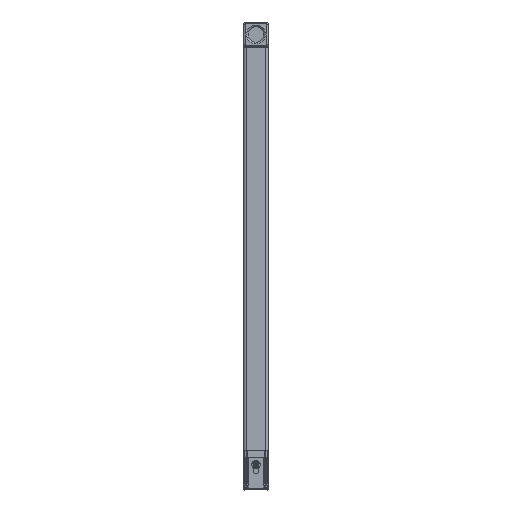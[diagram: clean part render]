
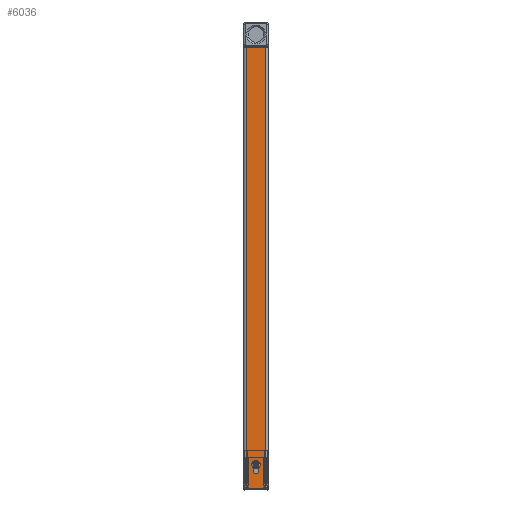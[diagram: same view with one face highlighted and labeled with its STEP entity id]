
A CAD part, top view. The second image highlights one B-rep face of the part: STEP entity #6036.
In plain terms, the highlighted planar face has unit normal (0, 0, 1).
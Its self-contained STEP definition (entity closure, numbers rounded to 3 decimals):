
#569=CARTESIAN_POINT('',(-12.,455.0,1335.0));
#570=VERTEX_POINT('',#569);
#577=CARTESIAN_POINT('',(12.,455.0,1335.0));
#578=VERTEX_POINT('',#577);
#579=CARTESIAN_POINT('',(12.,455.0,1335.0));
#580=DIRECTION('',(-1.0,0.0,0.0));
#581=VECTOR('',#580,24.);
#582=LINE('',#579,#581);
#583=EDGE_CURVE('',#578,#570,#582,.T.);
#1174=CARTESIAN_POINT('',(-3.,-47.,1335.0));
#1175=VERTEX_POINT('',#1174);
#1182=CARTESIAN_POINT('',(-3.0,-55.,1335.0));
#1183=VERTEX_POINT('',#1182);
#1184=CARTESIAN_POINT('',(-3.0,-55.,1335.0));
#1185=DIRECTION('',(0.0,1.0,0.0));
#1186=VECTOR('',#1185,8.0);
#1187=LINE('',#1184,#1186);
#1188=EDGE_CURVE('',#1183,#1175,#1187,.T.);
#1214=CARTESIAN_POINT('',(3.0,-55.,1335.0));
#1215=VERTEX_POINT('',#1214);
#1216=CARTESIAN_POINT('',(0.0,-55.,1335.0));
#1217=DIRECTION('',(0.0,0.0,-1.0));
#1218=DIRECTION('',(-1.0,0.0,0.0));
#1219=AXIS2_PLACEMENT_3D('',#1216,#1217,#1218);
#1220=CIRCLE('',#1219,3.0);
#1221=EDGE_CURVE('',#1215,#1183,#1220,.T.);
#1246=CARTESIAN_POINT('',(3.0,-47.,1335.0));
#1247=VERTEX_POINT('',#1246);
#1248=CARTESIAN_POINT('',(3.0,-47.,1335.0));
#1249=DIRECTION('',(0.0,-1.0,0.0));
#1250=VECTOR('',#1249,8.);
#1251=LINE('',#1248,#1250);
#1252=EDGE_CURVE('',#1247,#1215,#1251,.T.);
#1276=CARTESIAN_POINT('',(0.0,-47.,1335.0));
#1277=DIRECTION('',(0.0,0.0,-1.0));
#1278=DIRECTION('',(1.0,0.0,0.0));
#1279=AXIS2_PLACEMENT_3D('',#1276,#1277,#1278);
#1280=CIRCLE('',#1279,3.);
#1281=EDGE_CURVE('',#1175,#1247,#1280,.T.);
#1792=CARTESIAN_POINT('',(12.,-75.0,1335.0));
#1793=VERTEX_POINT('',#1792);
#1801=CARTESIAN_POINT('',(-12.,-75.0,1335.0));
#1802=VERTEX_POINT('',#1801);
#1803=CARTESIAN_POINT('',(-12.,-75.0,1335.0));
#1804=DIRECTION('',(1.0,0.0,0.0));
#1805=VECTOR('',#1804,24.);
#1806=LINE('',#1803,#1805);
#1807=EDGE_CURVE('',#1802,#1793,#1806,.T.);
#5998=CARTESIAN_POINT('',(12.,-75.0,1335.0));
#5999=DIRECTION('',(0.0,1.0,0.0));
#6000=VECTOR('',#5999,530.0);
#6001=LINE('',#5998,#6000);
#6002=EDGE_CURVE('',#1793,#578,#6001,.T.);
#6014=CARTESIAN_POINT('',(12.,-75.0,1335.0));
#6015=DIRECTION('',(0.0,0.0,1.0));
#6016=DIRECTION('',(1.0,0.0,0.0));
#6017=AXIS2_PLACEMENT_3D('',#6014,#6015,#6016);
#6018=PLANE('',#6017);
#6019=ORIENTED_EDGE('',*,*,#583,.T.);
#6020=CARTESIAN_POINT('',(-12.,-75.0,1335.0));
#6021=DIRECTION('',(0.0,1.0,0.0));
#6022=VECTOR('',#6021,530.0);
#6023=LINE('',#6020,#6022);
#6024=EDGE_CURVE('',#1802,#570,#6023,.T.);
#6025=ORIENTED_EDGE('',*,*,#6024,.F.);
#6026=ORIENTED_EDGE('',*,*,#1807,.T.);
#6027=ORIENTED_EDGE('',*,*,#6002,.T.);
#6028=EDGE_LOOP('',(#6019,#6025,#6026,#6027));
#6029=FACE_OUTER_BOUND('',#6028,.T.);
#6030=ORIENTED_EDGE('',*,*,#1252,.T.);
#6031=ORIENTED_EDGE('',*,*,#1221,.T.);
#6032=ORIENTED_EDGE('',*,*,#1188,.T.);
#6033=ORIENTED_EDGE('',*,*,#1281,.T.);
#6034=EDGE_LOOP('',(#6030,#6031,#6032,#6033));
#6035=FACE_BOUND('',#6034,.T.);
#6036=ADVANCED_FACE('',(#6029,#6035),#6018,.T.);
